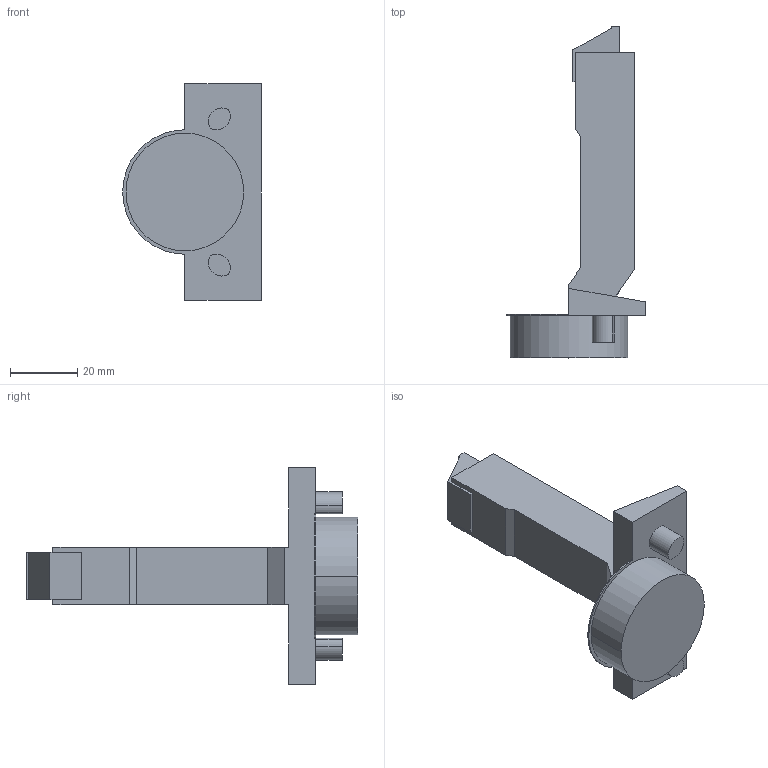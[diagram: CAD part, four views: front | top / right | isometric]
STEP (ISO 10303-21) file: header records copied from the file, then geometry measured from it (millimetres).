
FILE_DESCRIPTION (( 'STEP AP214' ), '1' );
FILE_NAME ('Scharnier TS Impresso 110° GB_BB, K00.step', '2018-09-12T09:11:11', ( '' ), ( '' ), 'SwSTEP 2.0', 'SolidWorks 2017', '' );
FILE_SCHEMA (( 'AUTOMOTIVE_DESIGN' ));
Length unit declared in the file: millimetre
Products named in the file (1): Scharnier TS Impresso 110° GB_BB, K00
Bounding box: 41.25 x 98.7 x 64.5 mm (x, y, z)
Volume: 42600.2 mm3; surface area: 12101.7 mm2
Topology: 1 solids, 1 shells, 48 faces, 120 edges, 80 vertices
Faces by surface type: plane 33, cylinder 15
Entity records: 1468 total; most frequent: CARTESIAN_POINT 249, DIRECTION 248, ORIENTED_EDGE 240, EDGE_CURVE 120, LINE 90, VECTOR 90, VERTEX_POINT 80, AXIS2_PLACEMENT_3D 79
